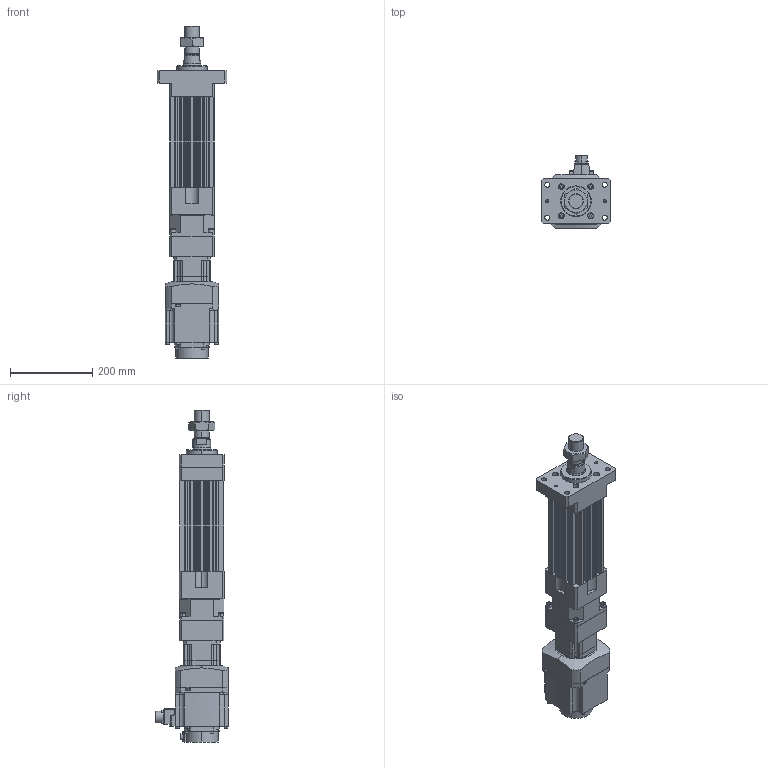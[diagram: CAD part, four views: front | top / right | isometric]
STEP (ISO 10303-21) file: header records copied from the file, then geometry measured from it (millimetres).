
FILE_DESCRIPTION (( 'STEP AP203' ), '1' );
FILE_NAME ('HES110NS(HS)-S050-W010G00-M-FM.STEP', '2023-01-27T07:03:44', ( 'tms' ), ( '' ), 'SwSTEP 2.0', 'SolidWorks 2013', '' );
FILE_SCHEMA (( 'CONFIG_CONTROL_DESIGN' ));
Length unit declared in the file: millimetre
Products named in the file (8): M36X1.5P; HES110NS(HS)-S050-W010G00-M-FM; AB090-003[HG-SR102B]; HES110-S050-G090-FM; HG-SR102; P0401301004; AB0901; HES110 ROD M ST050
Assembly tree (7 placements, depth 3):
  HES110NS(HS)-S050-W010G00-M-FM
    HES110-S050-G090-FM
    HES110 ROD M ST050
    M36X1.5P
    AB090-003[HG-SR102B]
      AB0901
      P0401301004
    HG-SR102
Bounding box: 170 x 177.49 x 808.5 mm (x, y, z)
Volume: 5440128.7 mm3; surface area: 670317 mm2
Topology: 4 solids, 15 shells, 1165 faces, 2950 edges, 1921 vertices
Faces by surface type: plane 558, cylinder 523, cone 72, bspline 8, torus 4
Entity records: 37081 total; most frequent: CARTESIAN_POINT 7224, DIRECTION 6367, ORIENTED_EDGE 5848, EDGE_CURVE 2934, AXIS2_PLACEMENT_3D 2335, VERTEX_POINT 1921, VECTOR 1697, LINE 1697
